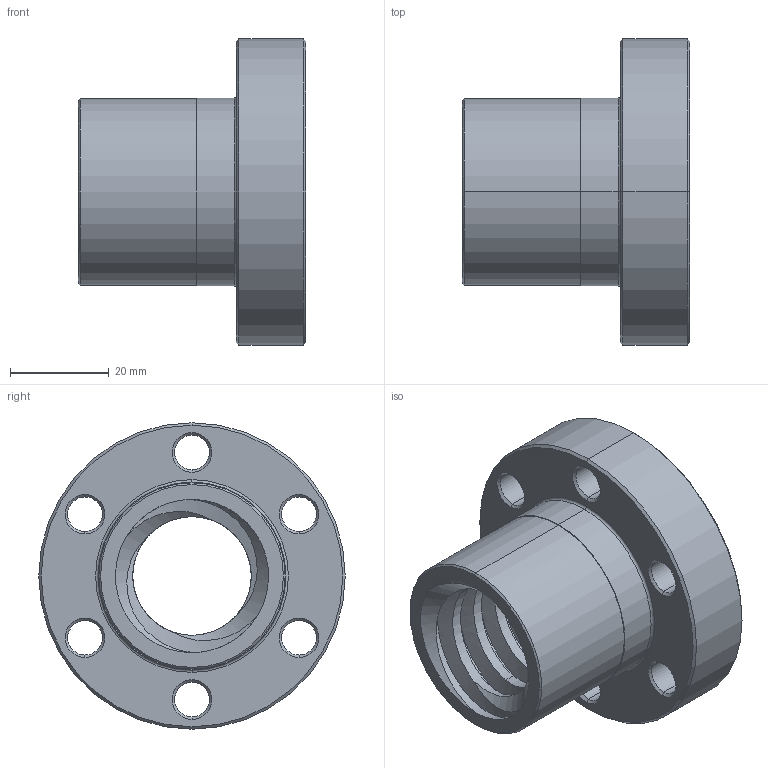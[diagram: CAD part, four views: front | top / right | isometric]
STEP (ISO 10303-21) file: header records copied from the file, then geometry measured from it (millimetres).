
FILE_DESCRIPTION((''),'2;1');
FILE_NAME('711-030-6805_PRT','2024-03-27T',('Brieden'),('ib-brieden'),'PRO/ENGINEER BY PARAMETRIC TECHNOLOGY CORPORATION, 2010160','PRO/ENGINEER BY PARAMETRIC TECHNOLOGY CORPORATION, 2010160','');
FILE_SCHEMA(('AUTOMOTIVE_DESIGN { 1 0 10303 214 1 1 1 1 }'));
Length unit declared in the file: millimetre
Products named in the file (1): 711-030-6805_PRT
Bounding box: 46 x 62 x 62 mm (x, y, z)
Volume: 46976.1 mm3; surface area: 19659.1 mm2
Topology: 1 solids, 1 shells, 83 faces, 193 edges, 114 vertices
Faces by surface type: cone 35, cylinder 30, bspline 12, plane 4, torus 2
Entity records: 5524 total; most frequent: CARTESIAN_POINT 3627, ORIENTED_EDGE 386, DIRECTION 365, EDGE_CURVE 193, AXIS2_PLACEMENT_3D 150, VERTEX_POINT 114, EDGE_LOOP 99, FACE_OUTER_BOUND 83
